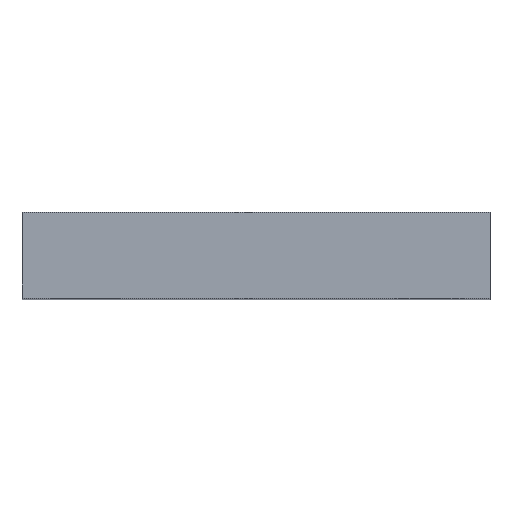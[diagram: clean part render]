
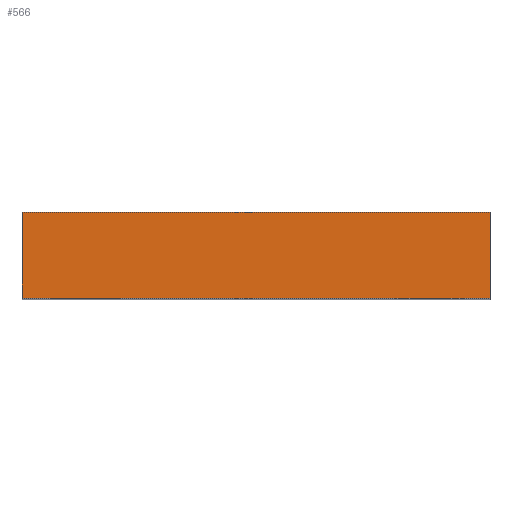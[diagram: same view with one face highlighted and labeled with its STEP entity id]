
A CAD part, top view. The second image highlights one B-rep face of the part: STEP entity #566.
In plain terms, the highlighted planar face has unit normal (0, 0, 1).
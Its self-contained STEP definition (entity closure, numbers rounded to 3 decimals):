
#9 = EDGE_CURVE ( 'NONE', #117, #380, #486, .T. ) ;
#20 = EDGE_LOOP ( 'NONE', ( #165, #568, #251, #397 ) ) ;
#37 = VECTOR ( 'NONE', #577, 1000. ) ;
#52 = VERTEX_POINT ( 'NONE', #676 ) ;
#55 = CARTESIAN_POINT ( 'NONE',  ( -98., 0., 198. ) ) ;
#97 = EDGE_CURVE ( 'NONE', #52, #117, #283, .T. ) ;
#109 = VECTOR ( 'NONE', #687, 1000. ) ;
#117 = VERTEX_POINT ( 'NONE', #445 ) ;
#141 = CARTESIAN_POINT ( 'NONE',  ( 98., 36., 198. ) ) ;
#152 = EDGE_CURVE ( 'NONE', #290, #380, #743, .T. ) ;
#165 = ORIENTED_EDGE ( 'NONE', *, *, #9, .T. ) ;
#197 = DIRECTION ( 'NONE',  ( 1., 0., 0. ) ) ;
#235 = CARTESIAN_POINT ( 'NONE',  ( 98., 0., 198. ) ) ;
#251 = ORIENTED_EDGE ( 'NONE', *, *, #496, .F. ) ;
#283 = LINE ( 'NONE', #627, #109 ) ;
#290 = VERTEX_POINT ( 'NONE', #725 ) ;
#298 = VECTOR ( 'NONE', #794, 1000. ) ;
#362 = VECTOR ( 'NONE', #197, 1000. ) ;
#380 = VERTEX_POINT ( 'NONE', #235 ) ;
#397 = ORIENTED_EDGE ( 'NONE', *, *, #97, .T. ) ;
#440 = FACE_OUTER_BOUND ( 'NONE', #20, .T. ) ;
#445 = CARTESIAN_POINT ( 'NONE',  ( -98., 0., 198. ) ) ;
#454 = PLANE ( 'NONE',  #484 ) ;
#484 = AXIS2_PLACEMENT_3D ( 'NONE', #706, #518, #578 ) ;
#486 = LINE ( 'NONE', #55, #298 ) ;
#496 = EDGE_CURVE ( 'NONE', #52, #290, #503, .T. ) ;
#503 = LINE ( 'NONE', #560, #362 ) ;
#518 = DIRECTION ( 'NONE',  ( 0., 0., -1. ) ) ;
#560 = CARTESIAN_POINT ( 'NONE',  ( -98., 36., 198. ) ) ;
#566 = ADVANCED_FACE ( 'NONE', ( #440 ), #454, .F. ) ;
#568 = ORIENTED_EDGE ( 'NONE', *, *, #152, .F. ) ;
#577 = DIRECTION ( 'NONE',  ( 0., -1., 0. ) ) ;
#578 = DIRECTION ( 'NONE',  ( -1., 0., 0. ) ) ;
#627 = CARTESIAN_POINT ( 'NONE',  ( -98., 36., 198. ) ) ;
#676 = CARTESIAN_POINT ( 'NONE',  ( -98., 36., 198. ) ) ;
#687 = DIRECTION ( 'NONE',  ( 0., -1., 0. ) ) ;
#706 = CARTESIAN_POINT ( 'NONE',  ( -98., 36., 198. ) ) ;
#725 = CARTESIAN_POINT ( 'NONE',  ( 98., 36., 198. ) ) ;
#743 = LINE ( 'NONE', #141, #37 ) ;
#794 = DIRECTION ( 'NONE',  ( 1., 0., 0. ) ) ;
